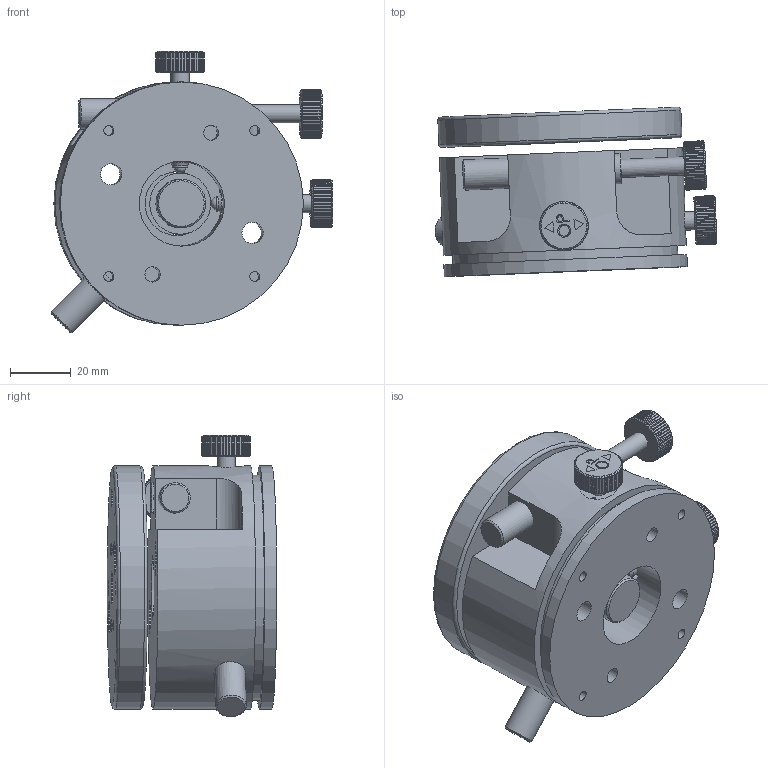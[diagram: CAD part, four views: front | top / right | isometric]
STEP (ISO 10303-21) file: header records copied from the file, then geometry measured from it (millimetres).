
FILE_DESCRIPTION (( 'STEP AP203' ), '1' );
FILE_NAME ('TRS-2.step', '2017-01-10T09:27:36', ( '¦K¬P' ), ( '' ), 'SwSTEP 2.0', 'SolidWorks 2012', '' );
FILE_SCHEMA (( 'CONFIG_CONTROL_DESIGN' ));
Length unit declared in the file: millimetre
Products named in the file (1): TRS-2
Bounding box: 92.71 x 55.72 x 92.47 mm (x, y, z)
Surface area: 45682.8 mm2 (no closed solid volume)
Topology: 0 solids, 24 shells, 625 faces, 1920 edges, 1327 vertices
Faces by surface type: plane 394, cylinder 212, cone 12, bspline 3, torus 2, sphere 2
Full cylindrical faces by diameter (mm): 1 x4, 3.3 x12, 5 x8, 5.4 x1, 6 x3, 6.5 x1, 7 x2, 9.5 x2, 10 x3, 10.5 x1, 11 x3, 12 x2, 16 x1, 28 x1, 74 x1, 80 x3
Entity records: 23859 total; most frequent: CARTESIAN_POINT 7970, ORIENTED_EDGE 3466, DIRECTION 2799, EDGE_CURVE 1842, VERTEX_POINT 1312, AXIS2_PLACEMENT_3D 1075, EDGE_LOOP 775, B_SPLINE_CURVE_WITH_KNOTS 741
